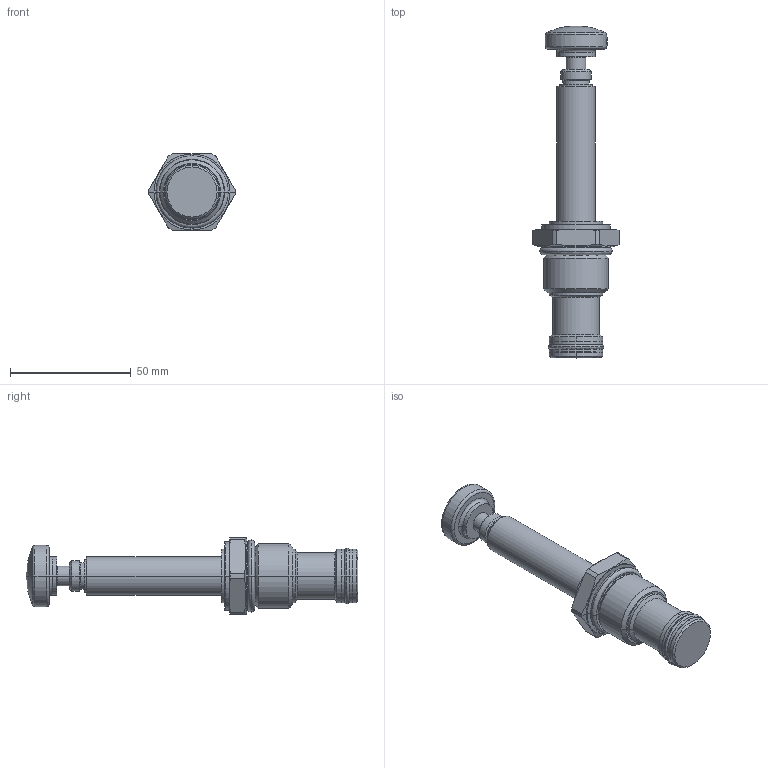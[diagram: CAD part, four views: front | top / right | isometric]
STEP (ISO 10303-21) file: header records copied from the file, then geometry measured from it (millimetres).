
FILE_DESCRIPTION((''),'2;1');
FILE_NAME('PRT0005','2009-03-03T',('JCS'),(''),'PRO/ENGINEER BY PARAMETRIC TECHNOLOGY CORPORATION, 2008010','PRO/ENGINEER BY PARAMETRIC TECHNOLOGY CORPORATION, 2008010','');
FILE_SCHEMA(('CONFIG_CONTROL_DESIGN'));
Length unit declared in the file: inch
Products named in the file (1): PRT0005
Bounding box: 35.69 x 137.31 x 31.75 mm (x, y, z)
Volume: 43939.4 mm3; surface area: 13137.5 mm2
Topology: 5 solids, 6 shells, 157 faces, 345 edges, 203 vertices
Faces by surface type: cylinder 52, cone 42, plane 27, torus 18, revolution 16, sphere 2
Entity records: 4777 total; most frequent: CARTESIAN_POINT 1213, DIRECTION 799, ORIENTED_EDGE 686, EDGE_CURVE 343, AXIS2_PLACEMENT_3D 337, VERTEX_POINT 203, CIRCLE 196, EDGE_LOOP 170
